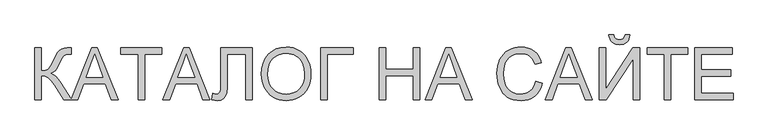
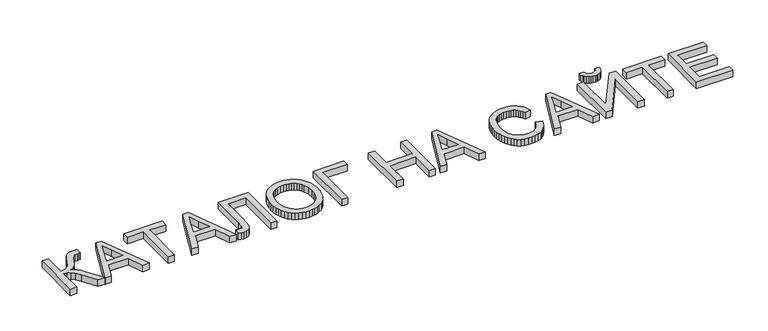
"""IFC4 building model written with IfcOpenShell, lengths in millimetres: proxy geometry, VALTEC_Ссылка : Каталог на сайте."""

from ifc_helpers import new_model, si_unit, origin, origin_with_axes, place, context, project, spatial, polyline, outline, extrude, source, transform, mapped, element, save


def generic_models_5d32eeb3(model_context):
    return source(origin(), model_context, "Body", "SweptSolid", [
        extrude(outline(polyline([(214.5664168, -236.7164233), (125.2937193, -95.2044825), (90.8201106, -49.8170414), (62.4472118, -21.3215151), (33.4305194, -6.2843386), (-2.9744697, -1.2719464), (-2.9744697, -236.7164233), (-65.7596636, -236.7164233), (-65.7596636, 265.5651274), (-2.9744697, 265.5651274), (-2.9744697, 45.816949), (39.5312291, 49.9709498), (55.2313597, 55.1634509), (67.2296777, 62.4329524), (89.6244941, 91.7562131), (116.2192967, 146.4939883), (135.3031752, 188.8157462), (150.8615179, 216.6981357), (167.5694919, 235.7207006), (190.1022641, 251.4629843), (216.8503508, 262.0395916), (246.2042683, 265.5651274), (287.4070518, 264.8293634), (287.4070518, 202.0441696), (273.5501633, 202.4120516), (259.6932748, 202.7799336), (230.9371655, 199.0091431), (210.6423421, 187.6967718), (193.1679474, 163.9377263), (173.3636333, 123.072168), (149.0680932, 72.1818253), (128.9112256, 44.345421), (109.0302694, 29.6914549), (85.5624638, 18.3484267), (109.8809965, 8.0017456), (134.0309167, -10.0398006), (158.0122242, -35.7762119), (181.8249192, -69.2074882), (285.2297386, -233.2620564), (484.3465466, 265.5651274), (537.8120632, 265.5651274), (738.3077506, -236.7164233), (671.9663641, -236.7164233), (614.4541455, -79.7534387), (407.5818369, -79.7534387), (350.1922456, -236.7164233), (287.4070518, -236.7164233), (283.8508592, -236.7164233), (214.5664168, -236.7164233)]), holes=[polyline([(430.6357753, -16.9682449), (591.5228345, -16.9682449), (546.2733491, 106.5174782), (511.0793049, 202.7799336), (479.8093353, 117.3086834), (430.6357753, -16.9682449)])]), origin_with_axes(), (0.0, 0.0, 1.0), 70.0),
        extrude(outline(polyline([(930.9552887, -236.7164233), (930.9552887, 202.7799336), (766.1441549, 202.7799336), (766.1441549, 265.5651274), (1158.5516164, 265.5651274), (1158.5516164, 202.7799336), (993.7404825, 202.7799336), (993.7404825, -236.7164233), (930.9552887, -236.7164233)])), origin_with_axes(), (0.0, 0.0, 1.0), 70.0),
        extrude(outline(polyline([(1170.6917222, -236.7164233), (1371.1874096, 265.5651274), (1424.6529262, 265.5651274), (1625.1486136, -236.7164233), (1558.8072271, -236.7164233), (1501.2950086, -79.7534387), (1294.4226999, -79.7534387), (1237.0331087, -236.7164233), (1170.6917222, -236.7164233)]), holes=[polyline([(1317.4766383, -16.9682449), (1478.3636975, -16.9682449), (1433.1142121, 106.5174782), (1397.9201679, 202.7799336), (1366.6501983, 117.3086834), (1317.4766383, -16.9682449)])]), origin_with_axes(), (0.0, 0.0, 1.0), 70.0),
        extrude(outline(polyline([(1731.4665102, 265.5651274), (2037.5443302, 265.5651274), (2037.5443302, -236.7164233), (1974.7591364, -236.7164233), (1974.7591364, 202.7799336), (1794.2517041, 202.7799336), (1794.2517041, -53.5111897), (1792.4276225, -121.0941779), (1786.9553778, -167.8611766), (1775.6583349, -200.1734785), (1756.3598585, -224.3923765), (1729.9336686, -239.5215235), (1697.2534847, -244.5645725), (1673.3718118, -242.6025352), (1645.1368687, -236.7164233), (1652.9850179, -173.9312295), (1683.0287142, -181.7793787), (1704.258571, -177.5640642), (1719.387718, -164.9181206), (1724.6721896, -153.632574), (1728.4468122, -136.6371922), (1731.4665102, -85.5169233), (1731.4665102, 265.5651274)])), origin_with_axes(), (0.0, 0.0, 1.0), 70.0),
        extrude(outline(polyline([(2123.8739717, 7.8024761), (2128.0586294, 66.7172448), (2140.6126025, 118.8721819), (2161.535891, 164.2672872), (2190.8284949, 202.9025609), (2226.7353104, 233.7509991), (2267.501234, 255.7855977), (2313.1262656, 269.0063569), (2363.6104053, 273.4132767), (2397.4018994, 271.3439404), (2429.4919392, 265.1359318), (2459.8805249, 254.7892507), (2488.5676563, 240.3038971), (2514.7485916, 222.116731), (2537.618589, 200.6646121), (2557.1776484, 175.9475406), (2573.4257698, 147.9655163), (2586.1943408, 117.3546686), (2595.3147485, 84.7511268), (2600.7869932, 50.1548908), (2602.6110748, 13.5659607), (2600.6911906, -23.5058145), (2594.9315381, -58.5695672), (2585.3321173, -91.6252973), (2571.8929282, -122.6730048), (2554.9320354, -150.8926195), (2534.7675035, -175.4640711), (2511.3993326, -196.3873596), (2484.8275227, -213.662485), (2456.0982381, -227.1821483), (2426.2576433, -236.8390506), (2395.3057384, -242.6331921), (2363.2425233, -244.5645725), (2328.8608851, -242.4300906), (2296.3493138, -236.0266446), (2265.7078093, -225.3542346), (2236.9363716, -210.4128607), (2210.7860931, -191.7811704), (2188.0080662, -170.0378117), (2168.602291, -145.1827844), (2152.5687674, -117.2160886), (2140.0147943, -87.2605307), (2131.0476706, -56.4389173), (2125.6673965, -24.7512483), (2123.8739717, 7.8024761)]), holes=[polyline([(2186.6591656, 7.1893395), (2189.7976588, -34.4349754), (2199.2131387, -71.3841233), (2214.905605, -103.6581042), (2236.8750579, -131.256918), (2263.5809915, -153.3604946), (2293.4828999, -169.1487635), (2326.5807832, -178.6217249), (2362.8746413, -181.7793787), (2399.7893002, -178.5910681), (2433.2780581, -169.0261362), (2463.3409149, -153.0845831), (2489.9778706, -130.7664087), (2511.7863751, -102.585115), (2527.3638784, -69.054204), (2536.7103803, -30.1736756), (2539.8258809, 14.0564701), (2534.491592, 69.6373082), (2518.4887252, 117.6765654), (2506.5900419, 138.5653649), (2492.2311478, 156.9632968), (2475.4120428, 172.870361), (2456.132727, 186.2865575), (2434.9910086, 196.9359748), (2412.5846959, 204.5427015), (2388.9137887, 209.1067375), (2363.9782872, 210.6280828), (2328.9451914, 207.6965232), (2296.4412843, 198.9018442), (2266.4665659, 184.244046), (2239.0210362, 163.7231284), (2216.1127178, 136.3504087), (2199.7496332, 101.137204), (2189.9317825, 58.0835143), (2186.6591656, 7.1893395)])]), origin_with_axes(), (0.0, 0.0, 1.0), 70.0),
        extrude(outline(polyline([(2696.7888656, 265.5651274), (3010.7148348, 265.5651274), (3010.7148348, 202.7799336), (2759.5740594, 202.7799336), (2759.5740594, -236.7164233), (2696.7888656, -236.7164233), (2696.7888656, 265.5651274)])), origin_with_axes(), (0.0, 0.0, 1.0), 70.0),
        extrude(outline(polyline([(3261.8556101, -236.7164233), (3261.8556101, 265.5651274), (3324.640804, 265.5651274), (3324.640804, 61.5132474), (3591.4778778, 61.5132474), (3591.4778778, 265.5651274), (3654.2630717, 265.5651274), (3654.2630717, -236.7164233), (3591.4778778, -236.7164233), (3591.4778778, -1.2719464), (3324.640804, -1.2719464), (3324.640804, -236.7164233), (3261.8556101, -236.7164233)])), origin_with_axes(), (0.0, 0.0, 1.0), 70.0),
        extrude(outline(polyline([(3705.6439237, -236.7164233), (3906.139611, 265.5651274), (3959.6051277, 265.5651274), (4160.100815, -236.7164233), (4093.7594286, -236.7164233), (4036.24721, -79.7534387), (3829.3749014, -79.7534387), (3771.9853101, -236.7164233), (3705.6439237, -236.7164233)]), holes=[polyline([(3852.4288397, -16.9682449), (4013.315899, -16.9682449), (3968.0664135, 106.5174782), (3932.8723693, 202.7799336), (3901.6023998, 117.3086834), (3852.4288397, -16.9682449)])]), origin_with_axes(), (0.0, 0.0, 1.0), 70.0),
        extrude(outline(polyline([(4776.5484116, -58.1710283), (4839.3336055, -74.3578361), (4826.9099239, -113.403145), (4810.3628983, -147.5203679), (4789.6925287, -176.709505), (4764.8988151, -200.9705561), (4736.5412446, -220.0429383), (4705.1793046, -233.6660684), (4670.8129948, -241.8399465), (4633.4423155, -244.5645725), (4595.1557633, -242.5029005), (4560.6170089, -236.3178845), (4529.8260523, -226.0095244), (4502.7828935, -211.5778203), (4479.1158185, -193.23737), (4458.4531131, -171.2027713), (4440.7947774, -145.4740243), (4426.1408112, -116.0511289), (4414.6330025, -84.2063437), (4406.4131392, -51.2119272), (4401.4812212, -17.0678796), (4399.8372486, 18.2257993), (4401.6958191, 56.0946522), (4407.2715305, 91.4649732), (4416.564383, 124.3367623), (4429.5743765, 154.7100196), (4446.0102711, 182.0827393), (4465.5808268, 205.9529158), (4488.2860437, 226.3205492), (4514.1259217, 243.1856394), (4542.2229091, 256.4102307), (4571.699454, 265.8563673), (4602.5555563, 271.5240493), (4634.7912161, 273.4132767), (4670.7018638, 270.9683942), (4703.6311345, 263.633747), (4733.5790282, 251.4093348), (4760.5455448, 234.2951578), (4784.0861604, 212.7434043), (4803.7563508, 187.2062625), (4819.5561161, 157.6837323), (4831.4854562, 124.175814), (4768.7002624, 109.2152795), (4758.8134338, 133.9055263), (4746.933911, 155.0012595), (4733.0616941, 172.502479), (4717.1967831, 186.4091848), (4699.2472074, 197.0049527), (4679.1209966, 204.5733583), (4656.8181506, 209.1144017), (4632.3386695, 210.6280828), (4604.1727043, 208.9496212), (4578.4133004, 203.9142364), (4555.0604579, 195.5219284), (4534.1141768, 183.7726972), (4515.8388723, 169.1953731), (4500.4989595, 152.3187866), (4488.0944385, 133.1429376), (4478.6253092, 111.6678261), (4466.6231591, 65.7132336), (4462.6224424, 18.3484267), (4467.3589231, -39.6543012), (4481.5683652, -89.8088799), (4492.3595703, -111.4641003), (4505.7872632, -130.1992573), (4521.8514436, -146.014351), (4540.5521117, -158.9093813), (4582.2300761, -176.0618794), (4627.1883216, -181.7793787), (4654.4843992, -179.8326698), (4679.5961775, -173.9925431), (4702.5236564, -164.2589987), (4723.266836, -150.6320364), (4741.3352069, -133.1729701), (4756.2382598, -111.9431133), (4767.9759947, -86.942466), (4776.5484116, -58.1710283)])), origin_with_axes(), (0.0, 0.0, 1.0), 70.0),
        extrude(outline(polyline([(4867.1700098, -236.7164233), (5067.6656971, 265.5651274), (5121.1312138, 265.5651274), (5321.6269011, -236.7164233), (5255.2855147, -236.7164233), (5197.7732961, -79.7534387), (4990.9009875, -79.7534387), (4933.5113962, -236.7164233), (4867.1700098, -236.7164233)]), holes=[polyline([(5013.9549258, -16.9682449), (5174.8419851, -16.9682449), (5129.5924997, 106.5174782), (5094.3984554, 202.7799336), (5063.1284859, 117.3086834), (5013.9549258, -16.9682449)])]), origin_with_axes(), (0.0, 0.0, 1.0), 70.0),
        extrude(outline(polyline([(5388.7040516, 265.5651274), (5451.4892454, 265.5651274), (5451.4892454, -132.2379367), (5714.4022447, 265.5651274), (5781.1115131, 265.5651274), (5781.1115131, -236.7164233), (5718.3263193, -236.7164233), (5718.3263193, 159.9829948), (5456.0264567, -236.7164233), (5388.7040516, -236.7164233), (5388.7040516, 265.5651274)])), origin_with_axes(), (0.0, 0.0, 1.0), 70.0),
        extrude(outline(polyline([(5639.844827, 391.1355151), (5686.9337223, 391.1355151), (5676.8016391, 350.9290787), (5667.9073254, 334.7920883), (5656.4608304, 321.2992497), (5642.6920803, 310.6498324), (5626.8310014, 303.0431057), (5608.8775936, 298.4790697), (5588.831857, 296.9577244), (5567.0578414, 298.4675734), (5547.5984167, 302.9971204), (5530.4535829, 310.5463655), (5515.6233399, 321.1153087), (5503.3222857, 334.5506657), (5493.765018, 350.6991525), (5486.9515369, 369.5607689), (5482.8818424, 391.1355151), (5529.9707377, 391.1355151), (5536.5926137, 370.4574813), (5547.6290735, 355.7575299), (5563.141431, 346.9743473), (5583.1909997, 344.0466197), (5605.8157424, 346.8823768), (5622.1864912, 355.3896479), (5633.2229511, 369.9976288), (5639.844827, 391.1355151)])), origin_with_axes(), (0.0, 0.0, 1.0), 70.0),
        extrude(outline(polyline([(6016.55599, -236.7164233), (6016.55599, 202.7799336), (5851.7448562, 202.7799336), (5851.7448562, 265.5651274), (6244.1523177, 265.5651274), (6244.1523177, 202.7799336), (6079.3411839, 202.7799336), (6079.3411839, -236.7164233), (6016.55599, -236.7164233)])), origin_with_axes(), (0.0, 0.0, 1.0), 70.0),
        extrude(outline(polyline([(6314.7856608, -236.7164233), (6314.7856608, 265.5651274), (6675.8005254, 265.5651274), (6675.8005254, 202.7799336), (6377.5708546, 202.7799336), (6377.5708546, 53.6650982), (6660.1042269, 53.6650982), (6660.1042269, -9.1200956), (6377.5708546, -9.1200956), (6377.5708546, -173.9312295), (6683.6486746, -173.9312295), (6683.6486746, -236.7164233), (6314.7856608, -236.7164233)])), origin_with_axes(), (0.0, 0.0, 1.0), 70.0),
    ])


if __name__ == "__main__":
    model = new_model("IFC4")
    model_context = context("Model", 3, world=origin())
    ifc_project = project(units=[si_unit("LENGTHUNIT", "METRE", prefix="MILLI")], contexts=[model_context])
    site = spatial("IfcSite", under=ifc_project)
    building = spatial("IfcBuilding", under=site)
    placement = place(None, origin())
    generic_models_shape = generic_models_5d32eeb3(model_context)
    element("IfcBuildingElementProxy", 1, Name="VALTEC_Ссылка : Каталог на сайте", ObjectType="VALTEC_Ссылка : Каталог на сайте", at=placement, inside=building, context=model_context, shape_type="MappedRepresentation", body=[
        mapped(generic_models_shape, transform((0.0, 0.0, 0.0), x_axis=(1.0, 0.0, 0.0), y_axis=(0.0, 1.0, 0.0), z_axis=(0.0, 0.0, 1.0))),
    ])
    save(model, "model.ifc")
